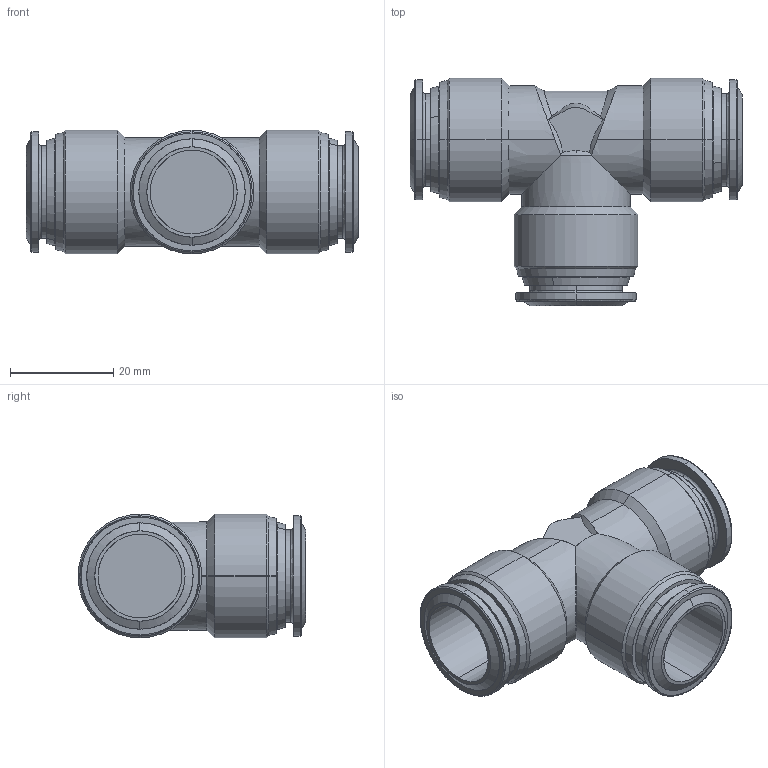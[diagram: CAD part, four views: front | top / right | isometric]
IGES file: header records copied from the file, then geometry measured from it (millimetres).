
Start section: SolidWorks IGES file using analytic representation for surfaces
Global section: file name: K:\Disegni Esecutivi\SERIE 57000\ASSIEMI_57000\57230\IGES\5723000010A.IGS; native system: SolidWorks 2020; preprocessor: SolidWorks 2020; author: cad06; date: 221212.153916; units: millimetre
Bounding box: 64.4 x 44.2 x 24 mm (x, y, z)
Surface area: 11519.6 mm2 (no closed solid volume)
Topology: 0 solids, 0 shells, 116 faces, 1734 edges, 1734 vertices
Faces by surface type: revolution 72, bspline 44
